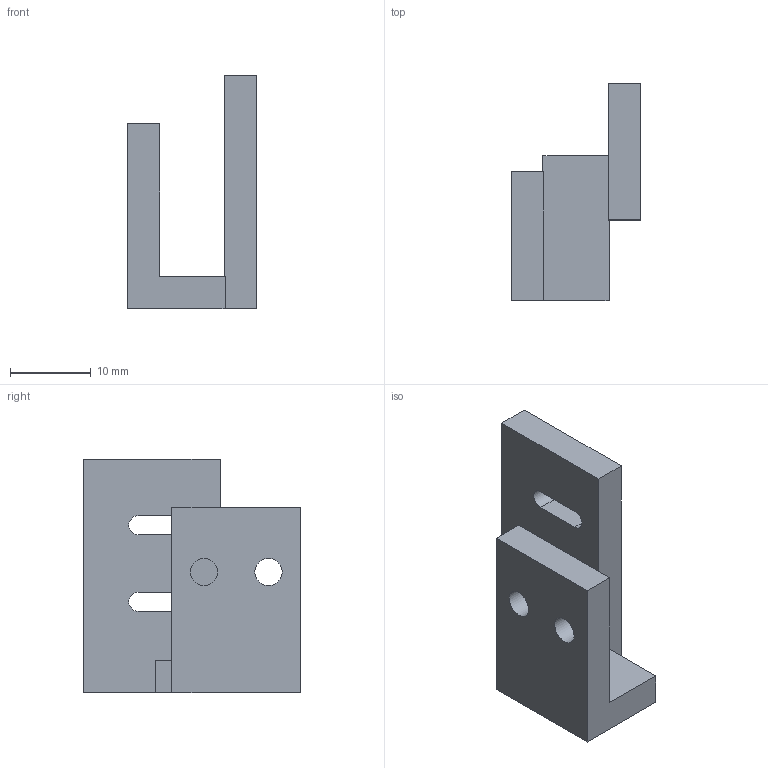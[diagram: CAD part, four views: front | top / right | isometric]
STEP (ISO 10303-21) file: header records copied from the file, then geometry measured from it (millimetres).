
FILE_DESCRIPTION(('Open CASCADE Model'),'2;1');
FILE_NAME('Open CASCADE Shape Model','2026-10-22T07:40:54',('Author'),( 'Open CASCADE'),'Open CASCADE STEP processor 7.8','Open CASCADE 7.8' ,'Unknown');
FILE_SCHEMA(('AUTOMOTIVE_DESIGN { 1 0 10303 214 1 1 1 1 }'));
Length unit declared in the file: millimetre
Products named in the file (1): Open CASCADE STEP translator 7.8 5
Bounding box: 16 x 27 x 29 mm (x, y, z)
Volume: 3800.8 mm3; surface area: 2838.2 mm2
Topology: 1 solids, 1 shells, 25 faces, 69 edges, 46 vertices
Faces by surface type: plane 19, cylinder 6
Full cylindrical faces by diameter (mm): 3.4 x2
Entity records: 1754 total; most frequent: CARTESIAN_POINT 351, DIRECTION 259, LINE 183, VECTOR 183, ORIENTED_EDGE 138, PCURVE 138, DEFINITIONAL_REPRESENTATION 138, EDGE_CURVE 69
